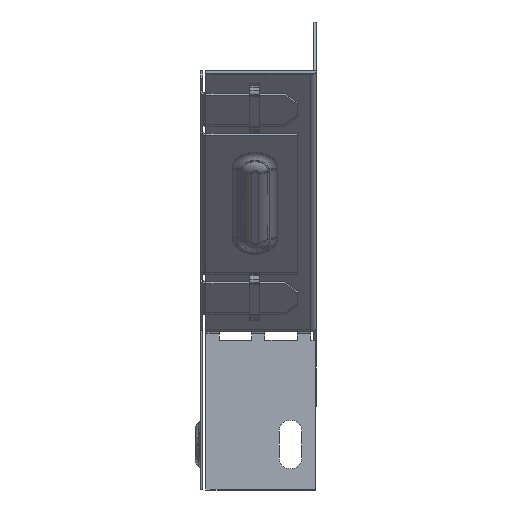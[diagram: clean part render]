
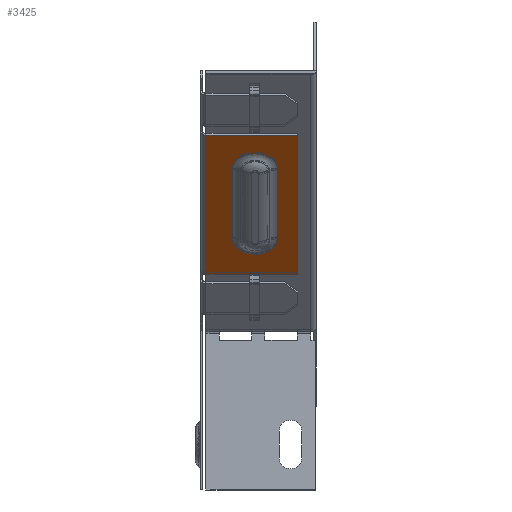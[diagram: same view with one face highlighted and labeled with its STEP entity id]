
A CAD part, left-side view. The second image highlights one B-rep face of the part: STEP entity #3425.
In plain terms, the highlighted planar face has unit normal (-0.707, 0, -0.707).
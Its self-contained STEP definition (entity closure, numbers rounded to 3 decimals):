
#560 = CARTESIAN_POINT ( 'NONE',  ( -101.206, 25.017, -45.472 ) ) ;
#742 = DIRECTION ( 'NONE',  ( -0.707, 0., 0.707 ) ) ;
#807 = ORIENTED_EDGE ( 'NONE', *, *, #6783, .T. ) ;
#928 = LINE ( 'NONE', #2014, #6458 ) ;
#976 = VECTOR ( 'NONE', #15887, 1000. ) ;
#1900 = LINE ( 'NONE', #7571, #12350 ) ;
#2014 = CARTESIAN_POINT ( 'NONE',  ( -111.823, 5., -34.855 ) ) ;
#2061 = CARTESIAN_POINT ( 'NONE',  ( -69.022, 5., -77.656 ) ) ;
#2287 = AXIS2_PLACEMENT_3D ( 'NONE', #12160, #3965, #13490 ) ;
#2294 = ORIENTED_EDGE ( 'NONE', *, *, #2626, .F. ) ;
#2424 = PLANE ( 'NONE',  #11980 ) ;
#2559 = ORIENTED_EDGE ( 'NONE', *, *, #4707, .T. ) ;
#2626 = EDGE_CURVE ( 'NONE', #6505, #10896, #11428, .T. ) ;
#2832 = VERTEX_POINT ( 'NONE', #17191 ) ;
#2911 = ORIENTED_EDGE ( 'NONE', *, *, #5129, .T. ) ;
#3291 = LINE ( 'NONE', #7631, #976 ) ;
#3425 = ADVANCED_FACE ( 'NONE', ( #10486, #17275 ), #2424, .F. ) ;
#3799 = DIRECTION ( 'NONE',  ( 0.707, 0., 0.707 ) ) ;
#3806 = CARTESIAN_POINT ( 'NONE',  ( -101.206, 18.1, -45.472 ) ) ;
#3965 = DIRECTION ( 'NONE',  ( 0.707, 0., 0.707 ) ) ;
#4194 = VERTEX_POINT ( 'NONE', #560 ) ;
#4328 = EDGE_LOOP ( 'NONE', ( #12837, #2911, #11713, #9576 ) ) ;
#4462 = DIRECTION ( 'NONE',  ( -0.707, 0., 0.707 ) ) ;
#4707 = EDGE_CURVE ( 'NONE', #13365, #10816, #1900, .T. ) ;
#4715 = AXIS2_PLACEMENT_3D ( 'NONE', #3806, #9232, #14838 ) ;
#4745 = EDGE_CURVE ( 'NONE', #16126, #4194, #13617, .T. ) ;
#4984 = CARTESIAN_POINT ( 'NONE',  ( -69.022, 5., -77.656 ) ) ;
#5106 = DIRECTION ( 'NONE',  ( 0., -1., 0. ) ) ;
#5108 = DIRECTION ( 'NONE',  ( 0.707, 0., -0.707 ) ) ;
#5129 = EDGE_CURVE ( 'NONE', #2832, #16126, #7834, .T. ) ;
#5226 = CIRCLE ( 'NONE', #4715, 6.917 ) ;
#5643 = VECTOR ( 'NONE', #4462, 1000. ) ;
#6041 = ORIENTED_EDGE ( 'NONE', *, *, #7776, .T. ) ;
#6211 = EDGE_LOOP ( 'NONE', ( #2294, #6041, #2559, #807 ) ) ;
#6458 = VECTOR ( 'NONE', #8621, 1000. ) ;
#6505 = VERTEX_POINT ( 'NONE', #9135 ) ;
#6783 = EDGE_CURVE ( 'NONE', #10816, #10896, #928, .T. ) ;
#7005 = LINE ( 'NONE', #4984, #14012 ) ;
#7018 = VECTOR ( 'NONE', #11588, 1000. ) ;
#7571 = CARTESIAN_POINT ( 'NONE',  ( -65.837, 5., -80.841 ) ) ;
#7631 = CARTESIAN_POINT ( 'NONE',  ( -79.993, 11.183, -66.685 ) ) ;
#7721 = VERTEX_POINT ( 'NONE', #10489 ) ;
#7776 = EDGE_CURVE ( 'NONE', #6505, #13365, #7005, .T. ) ;
#7834 = CIRCLE ( 'NONE', #2287, 6.917 ) ;
#8558 = CARTESIAN_POINT ( 'NONE',  ( -111.823, 33.2, -34.855 ) ) ;
#8621 = DIRECTION ( 'NONE',  ( 0., 1., 0. ) ) ;
#9135 = CARTESIAN_POINT ( 'NONE',  ( -69.022, 33.2, -77.656 ) ) ;
#9232 = DIRECTION ( 'NONE',  ( 0.707, 0., 0.707 ) ) ;
#9307 = CARTESIAN_POINT ( 'NONE',  ( -128.087, 33.2, -18.591 ) ) ;
#9576 = ORIENTED_EDGE ( 'NONE', *, *, #17479, .T. ) ;
#10431 = CARTESIAN_POINT ( 'NONE',  ( -65.837, 35., -80.841 ) ) ;
#10486 = FACE_BOUND ( 'NONE', #4328, .T. ) ;
#10489 = CARTESIAN_POINT ( 'NONE',  ( -101.206, 11.183, -45.472 ) ) ;
#10816 = VERTEX_POINT ( 'NONE', #17539 ) ;
#10896 = VERTEX_POINT ( 'NONE', #8558 ) ;
#11428 = LINE ( 'NONE', #9307, #5643 ) ;
#11588 = DIRECTION ( 'NONE',  ( -0.707, 0., 0.707 ) ) ;
#11713 = ORIENTED_EDGE ( 'NONE', *, *, #4745, .T. ) ;
#11850 = EDGE_CURVE ( 'NONE', #7721, #2832, #3291, .T. ) ;
#11980 = AXIS2_PLACEMENT_3D ( 'NONE', #10431, #3799, #5108 ) ;
#12160 = CARTESIAN_POINT ( 'NONE',  ( -79.993, 18.1, -66.685 ) ) ;
#12350 = VECTOR ( 'NONE', #742, 1000. ) ;
#12837 = ORIENTED_EDGE ( 'NONE', *, *, #11850, .T. ) ;
#12920 = CARTESIAN_POINT ( 'NONE',  ( -79.993, 25.017, -66.685 ) ) ;
#13365 = VERTEX_POINT ( 'NONE', #2061 ) ;
#13490 = DIRECTION ( 'NONE',  ( 0.5, -0.707, -0.5 ) ) ;
#13617 = LINE ( 'NONE', #12920, #7018 ) ;
#14012 = VECTOR ( 'NONE', #5106, 1000. ) ;
#14838 = DIRECTION ( 'NONE',  ( 0.5, -0.707, -0.5 ) ) ;
#14978 = CARTESIAN_POINT ( 'NONE',  ( -79.993, 25.017, -66.685 ) ) ;
#15887 = DIRECTION ( 'NONE',  ( 0.707, 0., -0.707 ) ) ;
#16126 = VERTEX_POINT ( 'NONE', #14978 ) ;
#17191 = CARTESIAN_POINT ( 'NONE',  ( -79.993, 11.183, -66.685 ) ) ;
#17275 = FACE_OUTER_BOUND ( 'NONE', #6211, .T. ) ;
#17479 = EDGE_CURVE ( 'NONE', #4194, #7721, #5226, .T. ) ;
#17539 = CARTESIAN_POINT ( 'NONE',  ( -111.823, 5., -34.855 ) ) ;
